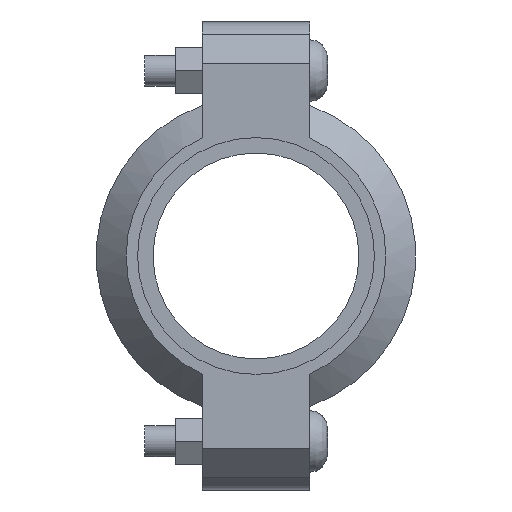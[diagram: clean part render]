
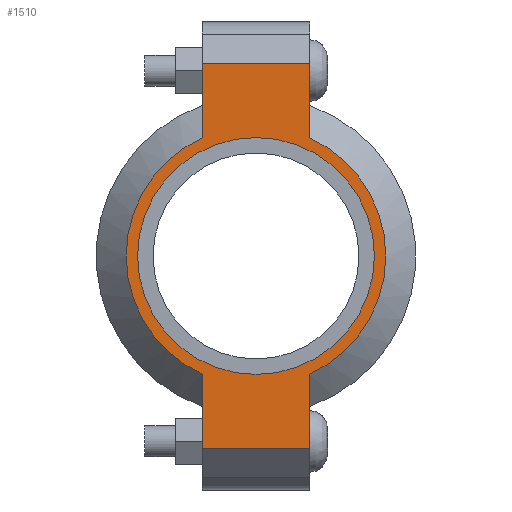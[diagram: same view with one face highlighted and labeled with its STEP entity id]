
A CAD part, left-side view. The second image highlights one B-rep face of the part: STEP entity #1510.
In plain terms, the highlighted planar face has unit normal (-1, 0, 0) as drawn and (0, 0, 1) by its records, which use the part's own axes.
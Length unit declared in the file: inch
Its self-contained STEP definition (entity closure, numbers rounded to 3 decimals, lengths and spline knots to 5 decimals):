
#134=LINE('',#2626,#227);
#142=LINE('',#2662,#235);
#149=LINE('',#2683,#242);
#158=LINE('',#2715,#251);
#159=LINE('',#2719,#252);
#160=LINE('',#2721,#253);
#227=VECTOR('',#2146,0.3937);
#235=VECTOR('',#2162,0.3937);
#242=VECTOR('',#2181,0.3937);
#251=VECTOR('',#2206,0.3937);
#252=VECTOR('',#2211,0.3937);
#253=VECTOR('',#2212,0.3937);
#309=FACE_BOUND('',#487,.T.);
#381=FACE_OUTER_BOUND('',#486,.T.);
#486=EDGE_LOOP('',(#1251,#1252,#1253,#1254,#1255,#1256,#1257,#1258));
#487=EDGE_LOOP('',(#1259));
#559=CIRCLE('',#1720,1.4375);
#585=CIRCLE('',#1779,1.575);
#586=CIRCLE('',#1780,1.575);
#651=VERTEX_POINT('',#2442);
#694=VERTEX_POINT('',#2623);
#695=VERTEX_POINT('',#2625);
#706=VERTEX_POINT('',#2657);
#707=VERTEX_POINT('',#2661);
#714=VERTEX_POINT('',#2680);
#715=VERTEX_POINT('',#2682);
#725=VERTEX_POINT('',#2718);
#726=VERTEX_POINT('',#2720);
#807=EDGE_CURVE('',#651,#651,#559,.T.);
#868=EDGE_CURVE('',#695,#694,#134,.T.);
#882=EDGE_CURVE('',#707,#706,#142,.T.);
#892=EDGE_CURVE('',#715,#714,#149,.T.);
#907=EDGE_CURVE('',#707,#694,#158,.T.);
#908=EDGE_CURVE('',#706,#715,#585,.T.);
#909=EDGE_CURVE('',#725,#714,#159,.T.);
#910=EDGE_CURVE('',#725,#726,#160,.T.);
#911=EDGE_CURVE('',#726,#695,#586,.T.);
#1251=ORIENTED_EDGE('',*,*,#907,.F.);
#1252=ORIENTED_EDGE('',*,*,#882,.T.);
#1253=ORIENTED_EDGE('',*,*,#908,.T.);
#1254=ORIENTED_EDGE('',*,*,#892,.T.);
#1255=ORIENTED_EDGE('',*,*,#909,.F.);
#1256=ORIENTED_EDGE('',*,*,#910,.T.);
#1257=ORIENTED_EDGE('',*,*,#911,.T.);
#1258=ORIENTED_EDGE('',*,*,#868,.T.);
#1259=ORIENTED_EDGE('',*,*,#807,.T.);
#1352=PLANE('',#1778);
#1510=ADVANCED_FACE('',(#381,#309),#1352,.T.);
#1720=AXIS2_PLACEMENT_3D('',#2444,#2022,#2023);
#1778=AXIS2_PLACEMENT_3D('',#2716,#2207,#2208);
#1779=AXIS2_PLACEMENT_3D('',#2717,#2209,#2210);
#1780=AXIS2_PLACEMENT_3D('',#2722,#2213,#2214);
#2022=DIRECTION('center_axis',(0.,0.,-1.));
#2023=DIRECTION('ref_axis',(-1.,0.,0.));
#2146=DIRECTION('',(-1.,0.,0.));
#2162=DIRECTION('',(1.,0.,0.));
#2181=DIRECTION('',(1.,0.,0.));
#2206=DIRECTION('',(0.,1.,0.));
#2207=DIRECTION('center_axis',(0.,0.,1.));
#2208=DIRECTION('ref_axis',(1.,0.,0.));
#2209=DIRECTION('center_axis',(0.,0.,1.));
#2210=DIRECTION('ref_axis',(-1.,0.,0.));
#2211=DIRECTION('',(0.,-1.,0.));
#2212=DIRECTION('',(-1.,0.,0.));
#2213=DIRECTION('center_axis',(0.,0.,1.));
#2214=DIRECTION('ref_axis',(-1.,0.,0.));
#2442=CARTESIAN_POINT('',(1.4375,0.,0.94));
#2444=CARTESIAN_POINT('Origin',(0.,0.,0.94));
#2623=CARTESIAN_POINT('',(-2.34,0.65,0.94));
#2625=CARTESIAN_POINT('',(-1.43462,0.65,0.94));
#2626=CARTESIAN_POINT('',(-2.84,0.65,0.94));
#2657=CARTESIAN_POINT('',(-1.43462,-0.65,0.94));
#2661=CARTESIAN_POINT('',(-2.34,-0.65,0.94));
#2662=CARTESIAN_POINT('',(2.84,-0.65,0.94));
#2680=CARTESIAN_POINT('',(2.34,-0.65,0.94));
#2682=CARTESIAN_POINT('',(1.43462,-0.65,0.94));
#2683=CARTESIAN_POINT('',(2.84,-0.65,0.94));
#2715=CARTESIAN_POINT('',(-2.34,0.325,0.94));
#2716=CARTESIAN_POINT('Origin',(0.,0.,
0.94));
#2717=CARTESIAN_POINT('Origin',(0.,0.,0.94));
#2718=CARTESIAN_POINT('',(2.34,0.65,0.94));
#2719=CARTESIAN_POINT('',(2.34,-0.325,0.94));
#2720=CARTESIAN_POINT('',(1.43462,0.65,0.94));
#2721=CARTESIAN_POINT('',(-2.84,0.65,0.94));
#2722=CARTESIAN_POINT('Origin',(0.,0.,0.94));
